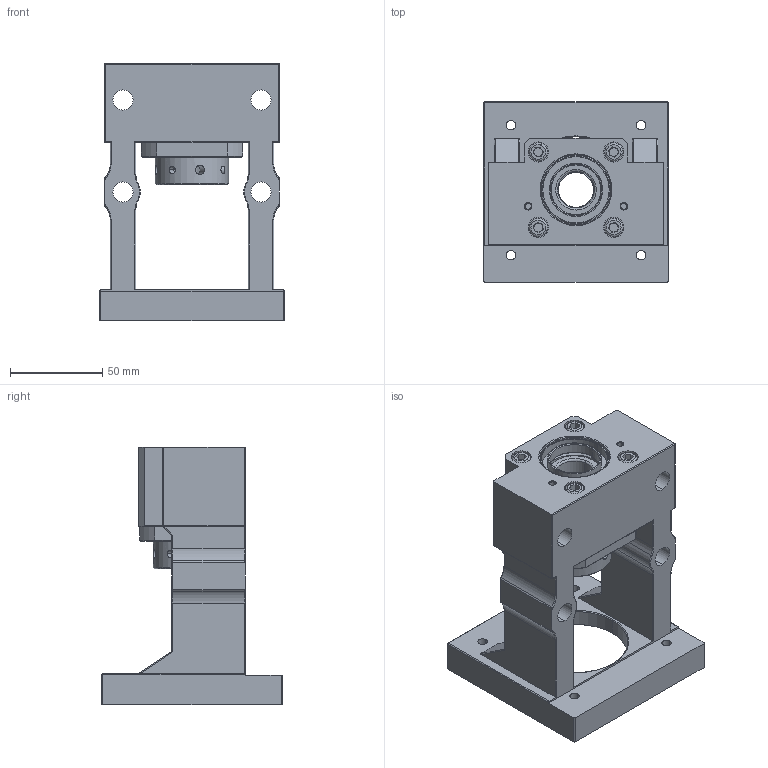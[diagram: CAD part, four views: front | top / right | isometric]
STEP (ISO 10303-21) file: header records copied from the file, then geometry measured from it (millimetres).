
FILE_DESCRIPTION (( 'STEP AP203' ), '1' );
FILE_NAME ('MBCS20-X.STEP', '2017-12-28T07:52:46', ( '' ), ( '' ), 'SwSTEP 2.0', 'SolidWorks 2017', '' );
FILE_SCHEMA (( 'CONFIG_CONTROL_DESIGN' ));
Length unit declared in the file: millimetre
Products named in the file (1): MBCS20-X
Bounding box: 100 x 98 x 140 mm (x, y, z)
Surface area: 86058.1 mm2 (no closed solid volume)
Topology: 0 solids, 17 shells, 350 faces, 898 edges, 561 vertices
Faces by surface type: cylinder 144, plane 96, torus 52, cone 52, sphere 6
Entity records: 11341 total; most frequent: CARTESIAN_POINT 2704, DIRECTION 1922, ORIENTED_EDGE 1644, EDGE_CURVE 878, AXIS2_PLACEMENT_3D 763, VERTEX_POINT 555, EDGE_LOOP 416, CIRCLE 412
